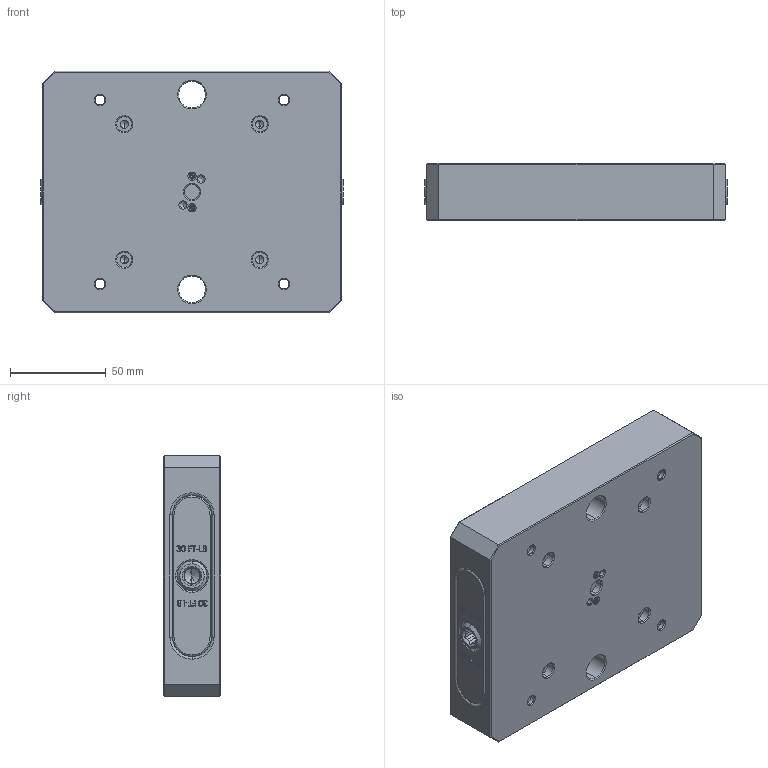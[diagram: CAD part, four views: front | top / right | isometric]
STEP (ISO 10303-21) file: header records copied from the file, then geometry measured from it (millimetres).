
FILE_DESCRIPTION (( 'STEP AP214' ), '1' );
FILE_NAME ('RL96A-56.STEP', '2019-07-29T17:59:12', ( '' ), ( '' ), 'SwSTEP 2.0', 'SolidWorks 2018', '' );
FILE_SCHEMA (( 'AUTOMOTIVE_DESIGN' ));
Length unit declared in the file: millimetre
Products named in the file (9): RL96-ASSY; SB54_FINISHED PART; 27X20.DB; RL96-3; 033.OR in Shape of Truck; RL96-2R; RL96-2L; RL96-156A; RL96A-56
Assembly tree (13 placements, depth 3):
  RL96A-56
    RL96-156A
    RL96-ASSY
      RL96-2L
      RL96-2R
      033.OR in Shape of Truck  x2
      RL96-3
      27X20.DB  x4
      SB54_FINISHED PART  x2
Bounding box: 158 x 30 x 126 mm (x, y, z)
Volume: 497851.5 mm3; surface area: 117750.8 mm2
Topology: 12 solids, 12 shells, 908 faces, 2220 edges, 1386 vertices
Faces by surface type: plane 423, cylinder 218, cone 122, bspline 97, torus 48
Entity records: 33514 total; most frequent: CARTESIAN_POINT 11857, ORIENTED_EDGE 4068, DIRECTION 3752, EDGE_CURVE 2034, VERTEX_POINT 1288, AXIS2_PLACEMENT_3D 1277, VECTOR 1198, LINE 1198
